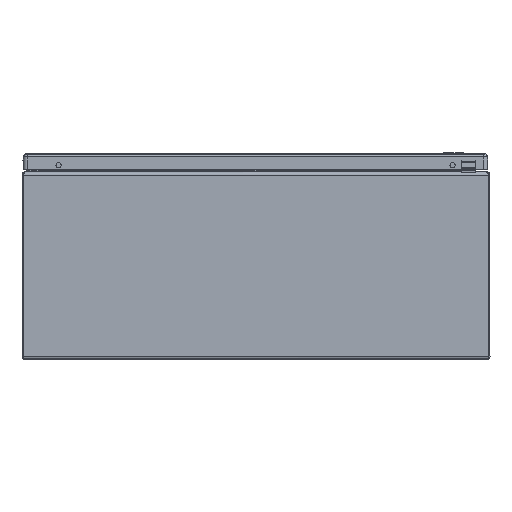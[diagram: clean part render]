
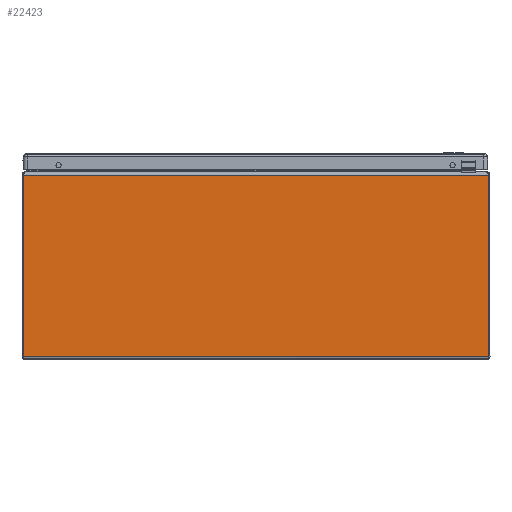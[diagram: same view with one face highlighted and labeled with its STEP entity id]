
A CAD part, front view. The second image highlights one B-rep face of the part: STEP entity #22423.
In plain terms, the highlighted planar face has unit normal (0, -1, 0).
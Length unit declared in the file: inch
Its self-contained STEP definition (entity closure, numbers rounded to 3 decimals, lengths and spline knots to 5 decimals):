
#2783 = CARTESIAN_POINT ( 'NONE',  ( -9.94693, -12., 7.859 ) ) ;
#2784 = DIRECTION ( 'NONE',  ( 0., 0., -1. ) ) ;
#3178 = FACE_OUTER_BOUND ( 'NONE', #42241, .T. ) ;
#4086 = VECTOR ( 'NONE', #2784, 39.37008 ) ;
#4092 = LINE ( 'NONE', #2783, #4086 ) ;
#4153 = LINE ( 'NONE', #19649, #4157 ) ;
#4157 = VECTOR ( 'NONE', #19651, 39.37008 ) ;
#4175 = LINE ( 'NONE', #19695, #4176 ) ;
#4176 = VECTOR ( 'NONE', #19697, 39.37008 ) ;
#4183 = LINE ( 'NONE', #19712, #4184 ) ;
#4184 = VECTOR ( 'NONE', #19714, 39.37008 ) ;
#18473 = VERTEX_POINT ( 'NONE', #32274 ) ;
#18475 = VERTEX_POINT ( 'NONE', #32276 ) ;
#18497 = VERTEX_POINT ( 'NONE', #32298 ) ;
#18499 = VERTEX_POINT ( 'NONE', #32300 ) ;
#19649 = CARTESIAN_POINT ( 'NONE',  ( 9.94693, -12., 7.859 ) ) ;
#19651 = DIRECTION ( 'NONE',  ( 0., 0., 1. ) ) ;
#19695 = CARTESIAN_POINT ( 'NONE',  ( -130., -12., 7.859 ) ) ;
#19697 = DIRECTION ( 'NONE',  ( 1., 0., 0. ) ) ;
#19712 = CARTESIAN_POINT ( 'NONE',  ( -130., -12., 0.097 ) ) ;
#19714 = DIRECTION ( 'NONE',  ( 1., 0., 0. ) ) ;
#22423 = ADVANCED_FACE ( 'NONE', ( #3178 ), #46101, .T. ) ;
#25166 = EDGE_CURVE ( 'NONE', #18497, #18499, #4092, .T. ) ;
#25209 = EDGE_CURVE ( 'NONE', #18473, #18475, #4153, .T. ) ;
#25219 = EDGE_CURVE ( 'NONE', #18497, #18475, #4175, .T. ) ;
#25223 = EDGE_CURVE ( 'NONE', #18499, #18473, #4183, .T. ) ;
#32274 = CARTESIAN_POINT ( 'NONE',  ( 9.94693, -12., 0.097 ) ) ;
#32276 = CARTESIAN_POINT ( 'NONE',  ( 9.94693, -12., 7.859 ) ) ;
#32298 = CARTESIAN_POINT ( 'NONE',  ( -9.94693, -12., 7.859 ) ) ;
#32300 = CARTESIAN_POINT ( 'NONE',  ( -9.94693, -12., 0.097 ) ) ;
#36308 = ORIENTED_EDGE ( 'NONE', *, *, #25209, .T. ) ;
#36309 = ORIENTED_EDGE ( 'NONE', *, *, #25219, .F. ) ;
#36310 = ORIENTED_EDGE ( 'NONE', *, *, #25166, .T. ) ;
#36311 = ORIENTED_EDGE ( 'NONE', *, *, #25223, .T. ) ;
#42241 = EDGE_LOOP ( 'NONE', ( #36308, #36309, #36310, #36311 ) ) ;
#42556 = AXIS2_PLACEMENT_3D ( 'NONE', #46094, #46106, #46107 ) ;
#46094 = CARTESIAN_POINT ( 'NONE',  ( -130., -12., 7.859 ) ) ;
#46101 = PLANE ( 'NONE',  #42556 ) ;
#46106 = DIRECTION ( 'NONE',  ( 0., -1., 0. ) ) ;
#46107 = DIRECTION ( 'NONE',  ( 0., 0., -1. ) ) ;
